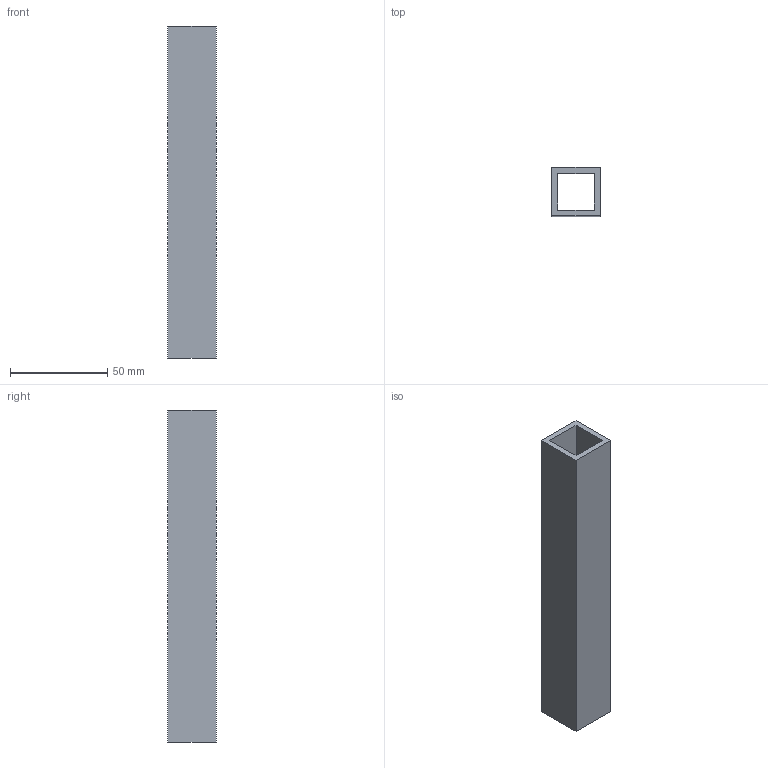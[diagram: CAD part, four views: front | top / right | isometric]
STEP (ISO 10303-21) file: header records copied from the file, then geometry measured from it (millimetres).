
FILE_DESCRIPTION(('Open CASCADE Model'),'2;1');
FILE_NAME('Open CASCADE Shape Model','2026-10-04T01:02:27',('Author'),( 'Open CASCADE'),'Open CASCADE STEP processor 8.0','Open CASCADE 8.0' ,'Unknown');
FILE_SCHEMA(('AUTOMOTIVE_DESIGN { 1 0 10303 214 1 1 1 1 }'));
Length unit declared in the file: millimetre
Products named in the file (1): Open CASCADE STEP translator 8.0 85
Bounding box: 25 x 25 x 171 mm (x, y, z)
Volume: 45144 mm3; surface area: 30624 mm2
Topology: 1 solids, 1 shells, 10 faces, 24 edges, 16 vertices
Faces by surface type: plane 10
Entity records: 598 total; most frequent: CARTESIAN_POINT 115, DIRECTION 78, LINE 56, VECTOR 56, ORIENTED_EDGE 48, PCURVE 48, DEFINITIONAL_REPRESENTATION 48, EDGE_CURVE 24
